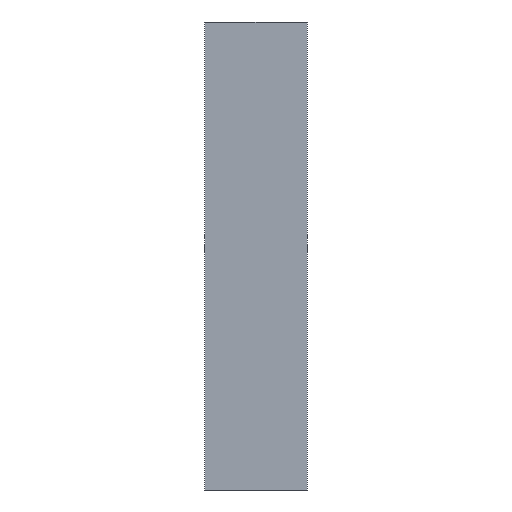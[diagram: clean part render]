
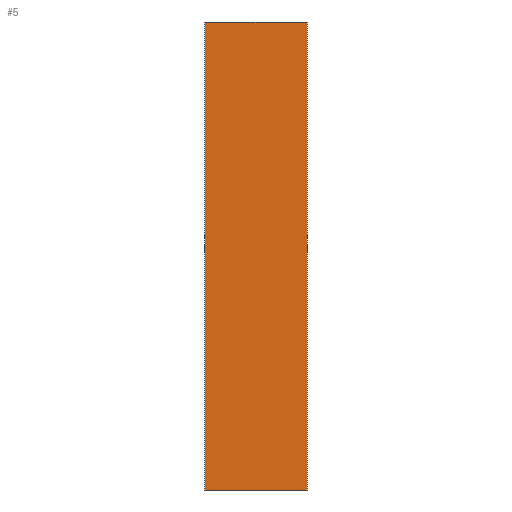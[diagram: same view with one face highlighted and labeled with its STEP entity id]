
A CAD part, front view. The second image highlights one B-rep face of the part: STEP entity #5.
In plain terms, the highlighted planar face has unit normal (0, -1, 0).
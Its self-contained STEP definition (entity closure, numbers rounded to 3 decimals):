
#3 = CARTESIAN_POINT ( 'NONE',  ( -440., 0., -2000. ) ) ;
#5 = ADVANCED_FACE ( 'NONE', ( #257 ), #190, .F. ) ;
#29 = VERTEX_POINT ( 'NONE', #333 ) ;
#84 = DIRECTION ( 'NONE',  ( 0., 1., 0. ) ) ;
#103 = CARTESIAN_POINT ( 'NONE',  ( -440., 0., -2000. ) ) ;
#114 = CARTESIAN_POINT ( 'NONE',  ( -440., 0., 2000. ) ) ;
#122 = CARTESIAN_POINT ( 'NONE',  ( -440., 0., 2000. ) ) ;
#127 = ORIENTED_EDGE ( 'NONE', *, *, #415, .T. ) ;
#140 = DIRECTION ( 'NONE',  ( 1., 0., 0. ) ) ;
#149 = DIRECTION ( 'NONE',  ( 0., 0., -1. ) ) ;
#154 = CARTESIAN_POINT ( 'NONE',  ( 440., 0., 2000. ) ) ;
#168 = CARTESIAN_POINT ( 'NONE',  ( -440., 0., 2000. ) ) ;
#190 = PLANE ( 'NONE',  #421 ) ;
#201 = DIRECTION ( 'NONE',  ( 1., 0., 0. ) ) ;
#202 = VECTOR ( 'NONE', #140, 1000. ) ;
#204 = DIRECTION ( 'NONE',  ( 0., 0., 1. ) ) ;
#212 = LINE ( 'NONE', #103, #202 ) ;
#235 = LINE ( 'NONE', #154, #236 ) ;
#236 = VECTOR ( 'NONE', #149, 1000. ) ;
#237 = VECTOR ( 'NONE', #201, 1000. ) ;
#240 = LINE ( 'NONE', #168, #237 ) ;
#241 = LINE ( 'NONE', #368, #242 ) ;
#242 = VECTOR ( 'NONE', #337, 1000. ) ;
#257 = FACE_OUTER_BOUND ( 'NONE', #439, .T. ) ;
#306 = ORIENTED_EDGE ( 'NONE', *, *, #317, .T. ) ;
#317 = EDGE_CURVE ( 'NONE', #362, #451, #241, .T. ) ;
#333 = CARTESIAN_POINT ( 'NONE',  ( 440., 0., -2000. ) ) ;
#337 = DIRECTION ( 'NONE',  ( 0., 0., -1. ) ) ;
#347 = VERTEX_POINT ( 'NONE', #363 ) ;
#361 = EDGE_CURVE ( 'NONE', #362, #347, #240, .T. ) ;
#362 = VERTEX_POINT ( 'NONE', #114 ) ;
#363 = CARTESIAN_POINT ( 'NONE',  ( 440., 0., 2000. ) ) ;
#365 = ORIENTED_EDGE ( 'NONE', *, *, #361, .F. ) ;
#368 = CARTESIAN_POINT ( 'NONE',  ( -440., 0., 2000. ) ) ;
#374 = EDGE_CURVE ( 'NONE', #347, #29, #235, .T. ) ;
#394 = ORIENTED_EDGE ( 'NONE', *, *, #374, .F. ) ;
#415 = EDGE_CURVE ( 'NONE', #451, #29, #212, .T. ) ;
#421 = AXIS2_PLACEMENT_3D ( 'NONE', #122, #84, #204 ) ;
#439 = EDGE_LOOP ( 'NONE', ( #127, #394, #365, #306 ) ) ;
#451 = VERTEX_POINT ( 'NONE', #3 ) ;
